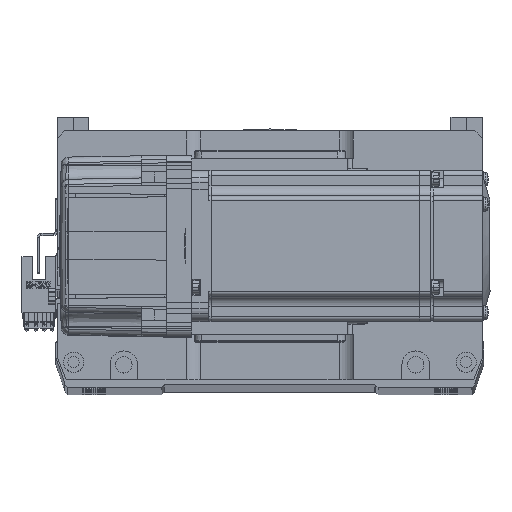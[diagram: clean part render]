
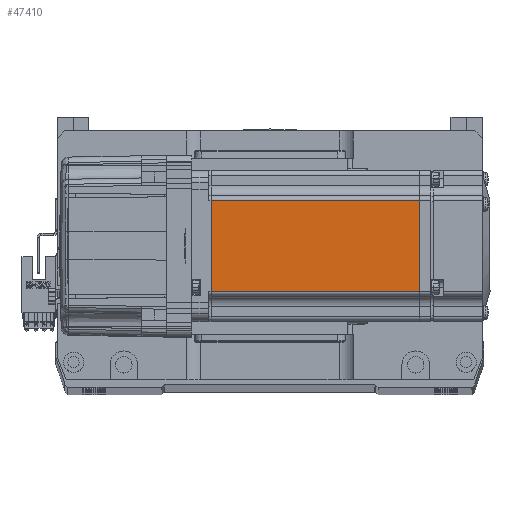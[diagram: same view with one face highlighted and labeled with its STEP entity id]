
A CAD part, top view. The second image highlights one B-rep face of the part: STEP entity #47410.
In plain terms, the highlighted planar face has unit normal (0, 0, 1) as drawn and (0, -1, 0) by its records, which use the part's own axes.
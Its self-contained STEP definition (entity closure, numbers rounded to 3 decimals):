
#82 = FACE_OUTER_BOUND ( 'NONE', #46663, .T. ) ;
#445 = ORIENTED_EDGE ( 'NONE', *, *, #7961, .T. ) ;
#2052 = VERTEX_POINT ( 'NONE', #54669 ) ;
#5612 = CARTESIAN_POINT ( 'NONE',  ( -90.45, -30., -18. ) ) ;
#7162 = CARTESIAN_POINT ( 'NONE',  ( -6.5, -30., 18. ) ) ;
#7405 = CARTESIAN_POINT ( 'NONE',  ( -7.75, -30., -18. ) ) ;
#7961 = EDGE_CURVE ( 'NONE', #2052, #56452, #42917, .T. ) ;
#9244 = CARTESIAN_POINT ( 'NONE',  ( -90.45, -30., -25. ) ) ;
#10854 = ORIENTED_EDGE ( 'NONE', *, *, #59719, .T. ) ;
#11196 = CARTESIAN_POINT ( 'NONE',  ( -90.45, -30., 18. ) ) ;
#19392 = DIRECTION ( 'NONE',  ( 0., 0., 1. ) ) ;
#24432 = CARTESIAN_POINT ( 'NONE',  ( -6.5, -30., -25. ) ) ;
#26545 = LINE ( 'NONE', #59725, #41546 ) ;
#33436 = LINE ( 'NONE', #9244, #58749 ) ;
#33869 = DIRECTION ( 'NONE',  ( 1., 0., 0. ) ) ;
#38507 = ORIENTED_EDGE ( 'NONE', *, *, #60266, .T. ) ;
#39019 = CARTESIAN_POINT ( 'NONE',  ( -7.75, -30., -25. ) ) ;
#39030 = LINE ( 'NONE', #39019, #46187 ) ;
#39182 = DIRECTION ( 'NONE',  ( 0., 0., -1. ) ) ;
#41546 = VECTOR ( 'NONE', #33869, 1000. ) ;
#42396 = DIRECTION ( 'NONE',  ( -1., 0., 0. ) ) ;
#42917 = LINE ( 'NONE', #7162, #56350 ) ;
#44305 = DIRECTION ( 'NONE',  ( 0., 0., -1. ) ) ;
#46187 = VECTOR ( 'NONE', #19392, 1000. ) ;
#46663 = EDGE_LOOP ( 'NONE', ( #38507, #445, #51720, #10854 ) ) ;
#47137 = VERTEX_POINT ( 'NONE', #5612 ) ;
#47410 = ADVANCED_FACE ( 'NONE', ( #82 ), #50045, .T. ) ;
#50045 = PLANE ( 'NONE',  #52323 ) ;
#51720 = ORIENTED_EDGE ( 'NONE', *, *, #62710, .T. ) ;
#52323 = AXIS2_PLACEMENT_3D ( 'NONE', #24432, #64389, #39182 ) ;
#52520 = VERTEX_POINT ( 'NONE', #7405 ) ;
#54669 = CARTESIAN_POINT ( 'NONE',  ( -7.75, -30., 18. ) ) ;
#56350 = VECTOR ( 'NONE', #42396, 1000. ) ;
#56452 = VERTEX_POINT ( 'NONE', #11196 ) ;
#58749 = VECTOR ( 'NONE', #44305, 1000. ) ;
#59719 = EDGE_CURVE ( 'NONE', #47137, #52520, #26545, .T. ) ;
#59725 = CARTESIAN_POINT ( 'NONE',  ( -6.5, -30., -18. ) ) ;
#60266 = EDGE_CURVE ( 'NONE', #52520, #2052, #39030, .T. ) ;
#62710 = EDGE_CURVE ( 'NONE', #56452, #47137, #33436, .T. ) ;
#64389 = DIRECTION ( 'NONE',  ( 0., -1., 0. ) ) ;
